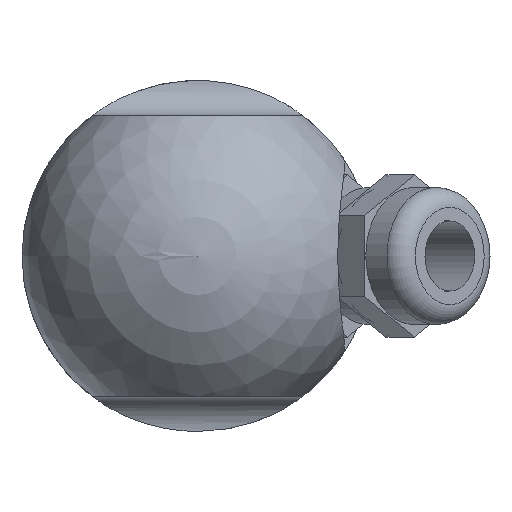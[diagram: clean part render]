
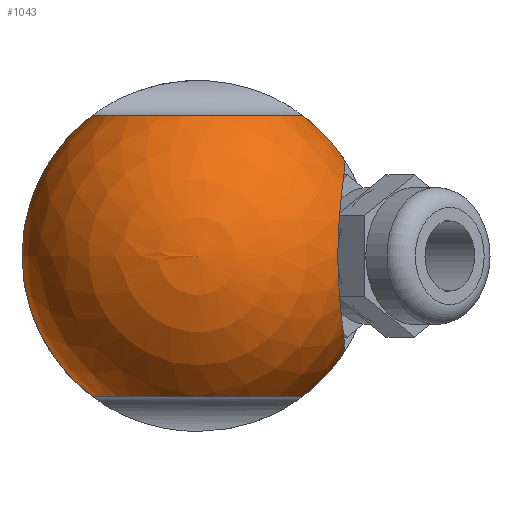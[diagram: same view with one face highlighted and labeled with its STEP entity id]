
A CAD part, left-side view. The second image highlights one B-rep face of the part: STEP entity #1043.
In plain terms, the highlighted spherical face has radius 17.5 mm.
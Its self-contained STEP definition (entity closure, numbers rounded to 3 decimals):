
#22=SPHERICAL_SURFACE('',#1197,17.5);
#27=B_SPLINE_CURVE_WITH_KNOTS('',3,(#1868,#1869,#1870,#1871,#1872,#1873,
#1874,#1875,#1876,#1877,#1878),.UNSPECIFIED.,.F.,.F.,(4,1,1,1,1,1,1,1,4),
(0.,0.004,0.008,0.012,
0.016,0.019,0.023,0.027,
0.031),.UNSPECIFIED.);
#405=ORIENTED_EDGE('',*,*,#548,.F.);
#406=ORIENTED_EDGE('',*,*,#549,.T.);
#407=ORIENTED_EDGE('',*,*,#550,.F.);
#408=ORIENTED_EDGE('',*,*,#541,.T.);
#409=ORIENTED_EDGE('',*,*,#551,.F.);
#410=ORIENTED_EDGE('',*,*,#547,.T.);
#541=EDGE_CURVE('',#639,#640,#699,.F.);
#547=EDGE_CURVE('',#644,#645,#701,.F.);
#548=EDGE_CURVE('',#646,#645,#702,.T.);
#549=EDGE_CURVE('',#646,#647,#27,.T.);
#550=EDGE_CURVE('',#639,#647,#703,.T.);
#551=EDGE_CURVE('',#644,#640,#704,.T.);
#639=VERTEX_POINT('',#1833);
#640=VERTEX_POINT('',#1835);
#644=VERTEX_POINT('',#1861);
#645=VERTEX_POINT('',#1863);
#646=VERTEX_POINT('',#1867);
#647=VERTEX_POINT('',#1879);
#699=CIRCLE('',#1191,10.5);
#701=CIRCLE('',#1196,10.5);
#702=CIRCLE('',#1198,17.5);
#703=CIRCLE('',#1199,17.5);
#704=CIRCLE('',#1200,17.5);
#822=EDGE_LOOP('',(#405,#406,#407,#408,#409,#410));
#944=FACE_BOUND('',#822,.T.);
#1043=ADVANCED_FACE('',(#944),#22,.T.);
#1191=AXIS2_PLACEMENT_3D('',#1836,#1499,#1500);
#1196=AXIS2_PLACEMENT_3D('',#1864,#1512,#1513);
#1197=AXIS2_PLACEMENT_3D('',#1865,#1514,#1515);
#1198=AXIS2_PLACEMENT_3D('',#1866,#1516,#1517);
#1199=AXIS2_PLACEMENT_3D('',#1880,#1518,#1519);
#1200=AXIS2_PLACEMENT_3D('',#1881,#1520,#1521);
#1499=DIRECTION('',(0.,0.,1.));
#1500=DIRECTION('',(1.,0.,0.));
#1512=DIRECTION('',(0.,0.,-1.));
#1513=DIRECTION('',(-1.,0.,0.));
#1514=DIRECTION('',(1.,0.,0.));
#1515=DIRECTION('',(0.,1.,0.));
#1516=DIRECTION('',(1.,0.,0.));
#1517=DIRECTION('',(0.,0.,-1.));
#1518=DIRECTION('',(1.,0.,0.));
#1519=DIRECTION('',(0.,0.,-1.));
#1520=DIRECTION('',(1.,0.,0.));
#1521=DIRECTION('',(0.,0.,-1.));
#1833=CARTESIAN_POINT('',(0.,-10.5,14.));
#1835=CARTESIAN_POINT('',(0.,10.5,14.));
#1836=CARTESIAN_POINT('',(0.,0.,14.));
#1861=CARTESIAN_POINT('',(0.,10.5,-14.));
#1863=CARTESIAN_POINT('',(0.,-10.5,-14.));
#1864=CARTESIAN_POINT('',(0.,0.,-14.));
#1865=CARTESIAN_POINT('',(0.,0.,0.));
#1866=CARTESIAN_POINT('',(0.,0.,0.));
#1867=CARTESIAN_POINT('',(0.,-14.529,-9.755));
#1868=CARTESIAN_POINT('',(0.,-14.529,-9.755));
#1869=CARTESIAN_POINT('',(-1.295,-14.654,-9.568));
#1870=CARTESIAN_POINT('',(-3.819,-14.715,-8.959));
#1871=CARTESIAN_POINT('',(-7.292,-14.463,-7.013));
#1872=CARTESIAN_POINT('',(-9.831,-14.113,-3.96));
#1873=CARTESIAN_POINT('',(-10.825,-13.945,-0.043));
#1874=CARTESIAN_POINT('',(-9.869,-14.107,3.894));
#1875=CARTESIAN_POINT('',(-7.329,-14.458,6.985));
#1876=CARTESIAN_POINT('',(-3.86,-14.715,8.946));
#1877=CARTESIAN_POINT('',(-1.299,-14.655,9.568));
#1878=CARTESIAN_POINT('',(0.,-14.529,9.755));
#1879=CARTESIAN_POINT('',(0.,-14.529,9.755));
#1880=CARTESIAN_POINT('',(0.,0.,0.));
#1881=CARTESIAN_POINT('',(0.,0.,0.));
